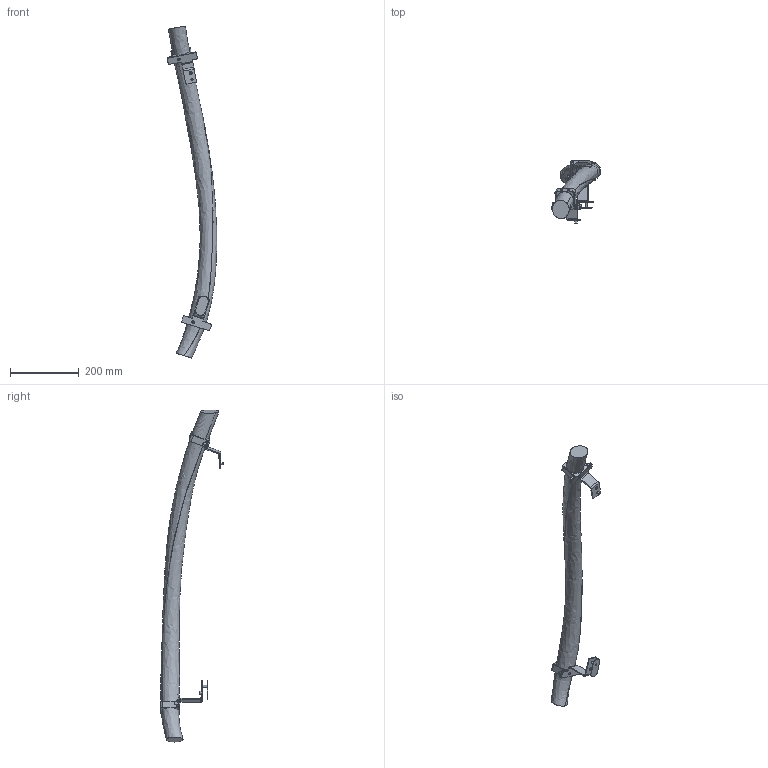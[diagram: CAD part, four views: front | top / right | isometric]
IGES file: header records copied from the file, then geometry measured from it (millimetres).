
Start section: SolidWorks IGES file using analytic representation for surfaces
Global section: file name: B:\Robotics\SEROP_PROJ\Product Development\DevelopmentProjects\RobCal\Design\CAD simuleringsmodeller\Till_RobotStudio\IRB6700-HL\IRB6700_235-265_IRC5_rev02\IRB6700_235-265_IRC5_rev02_IGES_j\IRB6700_235-265_IRC5_rev01_LINK02m_CABLE.IGS; native system: SolidWorks 2014; preprocessor: SolidWorks 2014; author: SEEMTHE; date: 160127.112537; units: millimetre
Bounding box: 144.4 x 182 x 965.7 mm (x, y, z)
Surface area: 199771.3 mm2 (no closed solid volume)
Topology: 0 solids, 0 shells, 280 faces, 4678 edges, 4678 vertices
Faces by surface type: bspline 158, revolution 122
